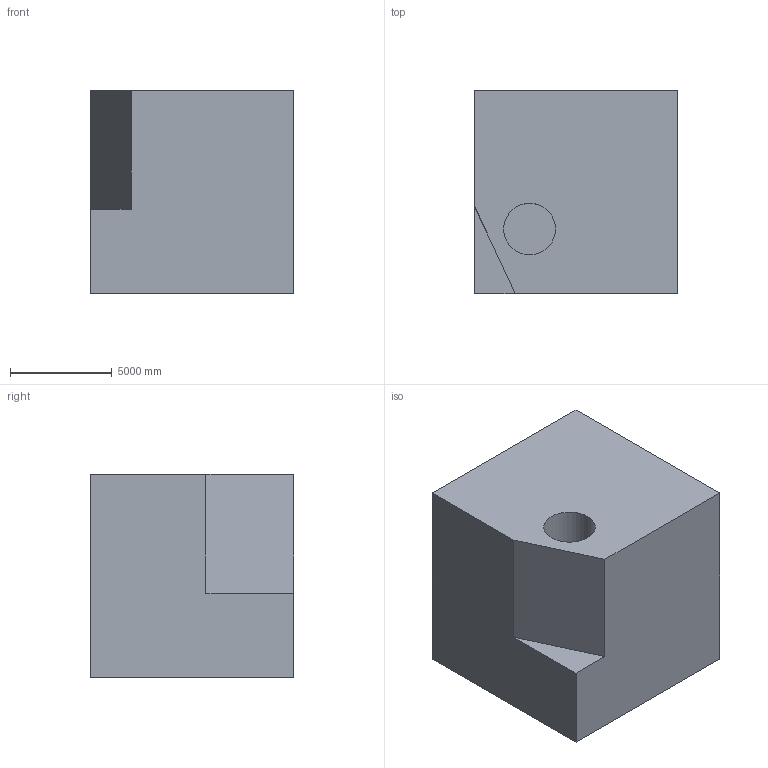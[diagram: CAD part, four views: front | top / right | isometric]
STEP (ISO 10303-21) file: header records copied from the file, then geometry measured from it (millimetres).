
FILE_DESCRIPTION (( 'STEP AP203' ), '1' );
FILE_NAME ('236.STEP', '2022-08-04T14:19:36', ( 'user' ), ( '' ), 'SwSTEP 2.0', 'SolidWorks 2021', '' );
FILE_SCHEMA (( 'CONFIG_CONTROL_DESIGN' ));
Length unit declared in the file: centimetre
Products named in the file (1): 236
Bounding box: 10000 x 10000 x 10000 mm (x, y, z)
Volume: 919703361007.7 mm3; surface area: 667752756.3 mm2
Topology: 1 solids, 1 shells, 15 faces, 36 edges, 24 vertices
Faces by surface type: plane 12, cylinder 3
Entity records: 513 total; most frequent: CARTESIAN_POINT 76, DIRECTION 74, ORIENTED_EDGE 72, EDGE_CURVE 36, LINE 30, VECTOR 30, VERTEX_POINT 24, AXIS2_PLACEMENT_3D 22
